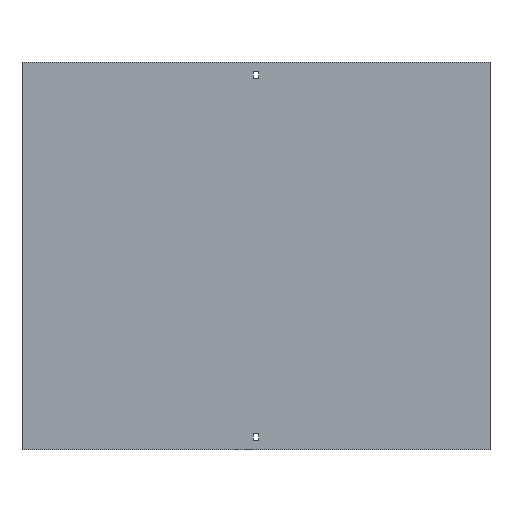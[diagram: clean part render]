
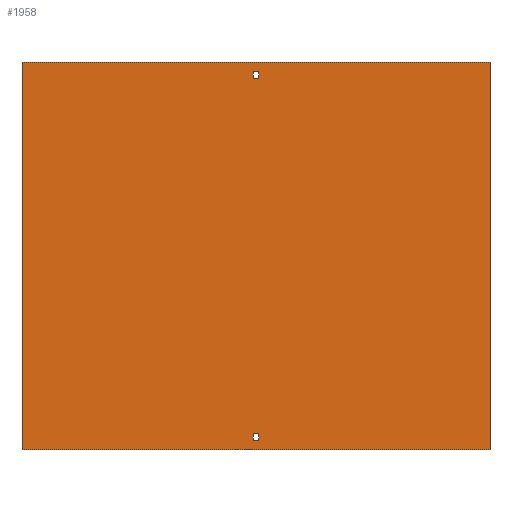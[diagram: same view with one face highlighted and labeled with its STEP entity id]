
A CAD part, front view. The second image highlights one B-rep face of the part: STEP entity #1958.
In plain terms, the highlighted planar face has unit normal (0, -1, 0).
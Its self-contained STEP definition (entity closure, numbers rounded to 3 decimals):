
#73 = VECTOR ( 'NONE', #1302, 1000. ) ;
#98 = VECTOR ( 'NONE', #2437, 1000. ) ;
#196 = ORIENTED_EDGE ( 'NONE', *, *, #2570, .F. ) ;
#209 = ORIENTED_EDGE ( 'NONE', *, *, #869, .F. ) ;
#217 = CARTESIAN_POINT ( 'NONE',  ( -3.25, 0., -238. ) ) ;
#219 = ORIENTED_EDGE ( 'NONE', *, *, #2116, .T. ) ;
#286 = LINE ( 'NONE', #2204, #2345 ) ;
#292 = EDGE_CURVE ( 'NONE', #775, #589, #2109, .T. ) ;
#295 = DIRECTION ( 'NONE',  ( 0., 1., 0. ) ) ;
#337 = CARTESIAN_POINT ( 'NONE',  ( -3.25, 0., 238. ) ) ;
#431 = LINE ( 'NONE', #662, #1705 ) ;
#442 = CARTESIAN_POINT ( 'NONE',  ( -3.25, 0., -238. ) ) ;
#465 = LINE ( 'NONE', #1116, #73 ) ;
#510 = CARTESIAN_POINT ( 'NONE',  ( 302., 0., 250. ) ) ;
#518 = CARTESIAN_POINT ( 'NONE',  ( -302., 0., -250. ) ) ;
#556 = CARTESIAN_POINT ( 'NONE',  ( 3.25, 0., 238. ) ) ;
#572 = ORIENTED_EDGE ( 'NONE', *, *, #1113, .F. ) ;
#589 = VERTEX_POINT ( 'NONE', #621 ) ;
#621 = CARTESIAN_POINT ( 'NONE',  ( 302., 0., -250. ) ) ;
#662 = CARTESIAN_POINT ( 'NONE',  ( 3.25, 0., 238. ) ) ;
#678 = CARTESIAN_POINT ( 'NONE',  ( -302., 0., 250. ) ) ;
#761 = CARTESIAN_POINT ( 'NONE',  ( -302., 0., -250. ) ) ;
#765 = LINE ( 'NONE', #510, #1051 ) ;
#775 = VERTEX_POINT ( 'NONE', #518 ) ;
#802 = ORIENTED_EDGE ( 'NONE', *, *, #1030, .F. ) ;
#805 = VECTOR ( 'NONE', #871, 1000. ) ;
#815 = EDGE_LOOP ( 'NONE', ( #1828, #1538, #219, #2280 ) ) ;
#839 = LINE ( 'NONE', #2427, #1358 ) ;
#849 = CARTESIAN_POINT ( 'NONE',  ( -3.25, 0., 229. ) ) ;
#853 = DIRECTION ( 'NONE',  ( -1., 0., 0. ) ) ;
#857 = EDGE_CURVE ( 'NONE', #1626, #775, #896, .T. ) ;
#869 = EDGE_CURVE ( 'NONE', #2088, #2189, #465, .T. ) ;
#871 = DIRECTION ( 'NONE',  ( 0., 0., 1. ) ) ;
#896 = LINE ( 'NONE', #678, #2317 ) ;
#924 = FACE_BOUND ( 'NONE', #1839, .T. ) ;
#940 = VERTEX_POINT ( 'NONE', #2329 ) ;
#1030 = EDGE_CURVE ( 'NONE', #2357, #2088, #431, .T. ) ;
#1051 = VECTOR ( 'NONE', #2451, 1000. ) ;
#1080 = VERTEX_POINT ( 'NONE', #442 ) ;
#1094 = VECTOR ( 'NONE', #1460, 1000. ) ;
#1100 = DIRECTION ( 'NONE',  ( 0., 0., -1. ) ) ;
#1113 = EDGE_CURVE ( 'NONE', #2189, #1847, #1741, .T. ) ;
#1116 = CARTESIAN_POINT ( 'NONE',  ( -3.25, 0., 238. ) ) ;
#1120 = DIRECTION ( 'NONE',  ( 1., 0., 0. ) ) ;
#1160 = ORIENTED_EDGE ( 'NONE', *, *, #2604, .F. ) ;
#1193 = CARTESIAN_POINT ( 'NONE',  ( 302., 0., 250. ) ) ;
#1302 = DIRECTION ( 'NONE',  ( -1., 0., 0. ) ) ;
#1319 = EDGE_CURVE ( 'NONE', #1847, #2357, #2309, .T. ) ;
#1358 = VECTOR ( 'NONE', #1394, 1000. ) ;
#1371 = CARTESIAN_POINT ( 'NONE',  ( -302., 0., 250. ) ) ;
#1376 = EDGE_CURVE ( 'NONE', #940, #1080, #2156, .T. ) ;
#1394 = DIRECTION ( 'NONE',  ( 1., 0., 0. ) ) ;
#1451 = ORIENTED_EDGE ( 'NONE', *, *, #857, .T. ) ;
#1460 = DIRECTION ( 'NONE',  ( 1., 0., 0. ) ) ;
#1467 = ORIENTED_EDGE ( 'NONE', *, *, #292, .T. ) ;
#1472 = DIRECTION ( 'NONE',  ( 1., 0., 0. ) ) ;
#1527 = LINE ( 'NONE', #2154, #805 ) ;
#1538 = ORIENTED_EDGE ( 'NONE', *, *, #2011, .T. ) ;
#1540 = PLANE ( 'NONE',  #2385 ) ;
#1626 = VERTEX_POINT ( 'NONE', #1371 ) ;
#1657 = DIRECTION ( 'NONE',  ( 0., 0., -1. ) ) ;
#1705 = VECTOR ( 'NONE', #1971, 1000. ) ;
#1730 = EDGE_LOOP ( 'NONE', ( #1467, #196, #1160, #1451 ) ) ;
#1741 = LINE ( 'NONE', #2159, #98 ) ;
#1793 = EDGE_CURVE ( 'NONE', #1080, #2517, #1527, .T. ) ;
#1809 = CARTESIAN_POINT ( 'NONE',  ( -302., 0., 250. ) ) ;
#1821 = VECTOR ( 'NONE', #1472, 1000. ) ;
#1828 = ORIENTED_EDGE ( 'NONE', *, *, #1793, .T. ) ;
#1835 = CARTESIAN_POINT ( 'NONE',  ( 3.25, 0., -229. ) ) ;
#1839 = EDGE_LOOP ( 'NONE', ( #2669, #572, #209, #802 ) ) ;
#1847 = VERTEX_POINT ( 'NONE', #849 ) ;
#1958 = ADVANCED_FACE ( 'NONE', ( #2581, #924, #2594 ), #1540, .F. ) ;
#1971 = DIRECTION ( 'NONE',  ( 0., 0., 1. ) ) ;
#2011 = EDGE_CURVE ( 'NONE', #2517, #2628, #286, .T. ) ;
#2039 = VECTOR ( 'NONE', #853, 1000. ) ;
#2058 = LINE ( 'NONE', #2694, #2439 ) ;
#2088 = VERTEX_POINT ( 'NONE', #556 ) ;
#2109 = LINE ( 'NONE', #761, #1094 ) ;
#2116 = EDGE_CURVE ( 'NONE', #2628, #940, #2058, .T. ) ;
#2154 = CARTESIAN_POINT ( 'NONE',  ( -3.25, 0., -238. ) ) ;
#2156 = LINE ( 'NONE', #217, #2039 ) ;
#2159 = CARTESIAN_POINT ( 'NONE',  ( -3.25, 0., 238. ) ) ;
#2189 = VERTEX_POINT ( 'NONE', #337 ) ;
#2204 = CARTESIAN_POINT ( 'NONE',  ( -3.25, 0., -229. ) ) ;
#2210 = VERTEX_POINT ( 'NONE', #1193 ) ;
#2218 = DIRECTION ( 'NONE',  ( -1., 0., 0. ) ) ;
#2280 = ORIENTED_EDGE ( 'NONE', *, *, #1376, .T. ) ;
#2309 = LINE ( 'NONE', #2699, #1821 ) ;
#2317 = VECTOR ( 'NONE', #1100, 1000. ) ;
#2329 = CARTESIAN_POINT ( 'NONE',  ( 3.25, 0., -238. ) ) ;
#2345 = VECTOR ( 'NONE', #1120, 1000. ) ;
#2357 = VERTEX_POINT ( 'NONE', #2521 ) ;
#2385 = AXIS2_PLACEMENT_3D ( 'NONE', #1809, #295, #2218 ) ;
#2427 = CARTESIAN_POINT ( 'NONE',  ( -302., 0., 250. ) ) ;
#2437 = DIRECTION ( 'NONE',  ( 0., 0., -1. ) ) ;
#2439 = VECTOR ( 'NONE', #1657, 1000. ) ;
#2451 = DIRECTION ( 'NONE',  ( 0., 0., -1. ) ) ;
#2517 = VERTEX_POINT ( 'NONE', #2660 ) ;
#2521 = CARTESIAN_POINT ( 'NONE',  ( 3.25, 0., 229. ) ) ;
#2570 = EDGE_CURVE ( 'NONE', #2210, #589, #765, .T. ) ;
#2581 = FACE_OUTER_BOUND ( 'NONE', #1730, .T. ) ;
#2594 = FACE_BOUND ( 'NONE', #815, .T. ) ;
#2604 = EDGE_CURVE ( 'NONE', #1626, #2210, #839, .T. ) ;
#2628 = VERTEX_POINT ( 'NONE', #1835 ) ;
#2660 = CARTESIAN_POINT ( 'NONE',  ( -3.25, 0., -229. ) ) ;
#2669 = ORIENTED_EDGE ( 'NONE', *, *, #1319, .F. ) ;
#2694 = CARTESIAN_POINT ( 'NONE',  ( 3.25, 0., -238. ) ) ;
#2699 = CARTESIAN_POINT ( 'NONE',  ( -3.25, 0., 229. ) ) ;
